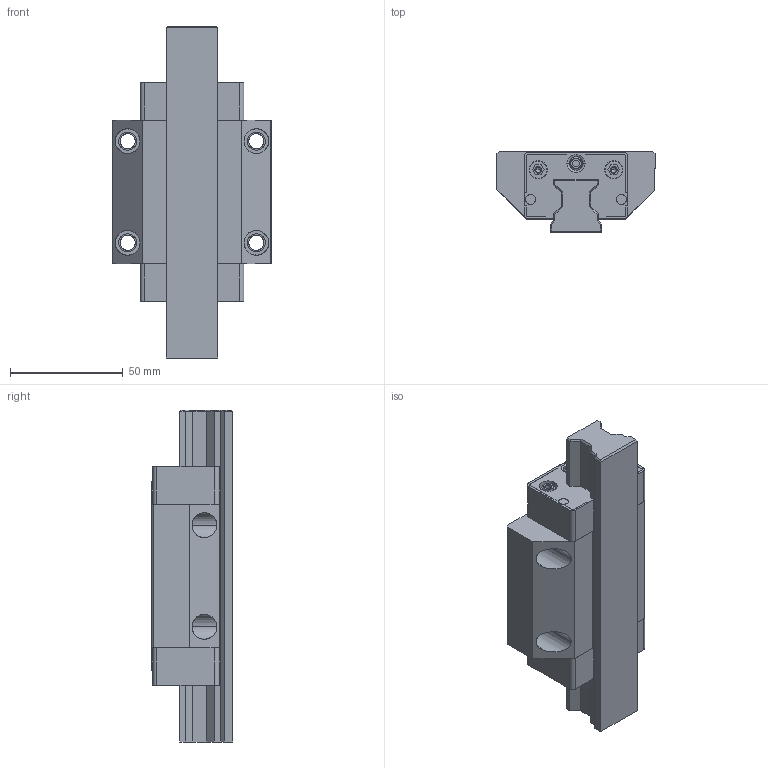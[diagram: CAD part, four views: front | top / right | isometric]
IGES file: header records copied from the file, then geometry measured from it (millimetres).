
Start section: 3D InterOp IGES (v. 2019 1.0.2), Spatial Corp. Copyright (c) 1999-2017.
Global section: file name: R1851_size25.igs; native system: Spatial Corp.; preprocessor: 3D InterOp GENERIC/IGES 3.0; author: Noname; organization: Noname; date: 20220630.112912; units: millimetre
Bounding box: 70 x 36 x 147 mm (x, y, z)
Surface area: 54380.6 mm2 (no closed solid volume)
Topology: 0 solids, 0 shells, 386 faces, 1984 edges, 1972 vertices
Faces by surface type: extrusion 236, revolution 150
